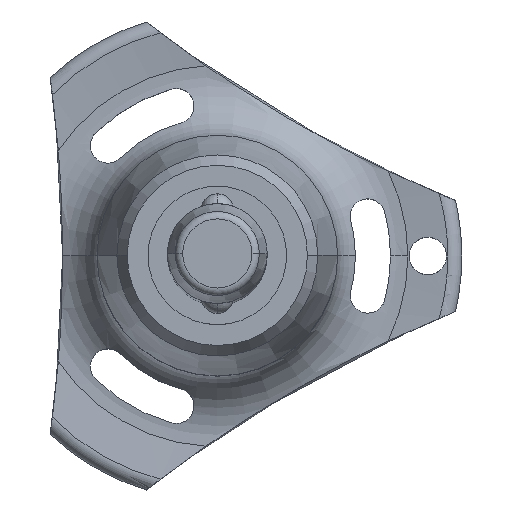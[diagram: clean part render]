
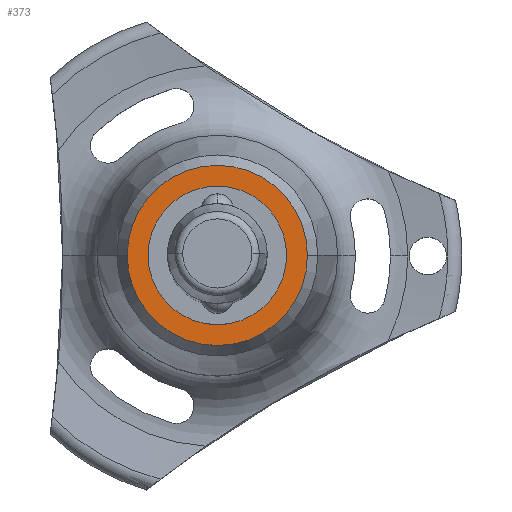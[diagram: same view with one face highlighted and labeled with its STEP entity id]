
A CAD part, top view. The second image highlights one B-rep face of the part: STEP entity #373.
In plain terms, the highlighted planar face has unit normal (0, 0, 1).
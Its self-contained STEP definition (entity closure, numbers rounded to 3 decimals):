
#15 = ORIENTED_EDGE ( 'NONE', *, *, #663, .F. ) ;
#49 = DIRECTION ( 'NONE',  ( 0., 0., -1. ) ) ;
#60 = AXIS2_PLACEMENT_3D ( 'NONE', #1111, #736, #1950 ) ;
#103 = ORIENTED_EDGE ( 'NONE', *, *, #1898, .F. ) ;
#276 = VERTEX_POINT ( 'NONE', #1463 ) ;
#300 = CIRCLE ( 'NONE', #1859, 5.554 ) ;
#373 = ADVANCED_FACE ( 'NONE', ( #2734, #623 ), #2042, .T. ) ;
#428 = VERTEX_POINT ( 'NONE', #2053 ) ;
#622 = EDGE_CURVE ( 'NONE', #2579, #428, #1045, .T. ) ;
#623 = FACE_OUTER_BOUND ( 'NONE', #2482, .T. ) ;
#663 = EDGE_CURVE ( 'NONE', #276, #2404, #1005, .T. ) ;
#722 = DIRECTION ( 'NONE',  ( -1., 0., 0. ) ) ;
#736 = DIRECTION ( 'NONE',  ( 0., 0., -1. ) ) ;
#773 = DIRECTION ( 'NONE',  ( 0., 0., -1. ) ) ;
#797 = DIRECTION ( 'NONE',  ( 0., 0., 1. ) ) ;
#1005 = CIRCLE ( 'NONE', #1350, 7.22 ) ;
#1045 = CIRCLE ( 'NONE', #60, 5.554 ) ;
#1111 = CARTESIAN_POINT ( 'NONE',  ( 0., 0., -80.6 ) ) ;
#1188 = AXIS2_PLACEMENT_3D ( 'NONE', #1408, #797, #2458 ) ;
#1269 = ORIENTED_EDGE ( 'NONE', *, *, #622, .T. ) ;
#1350 = AXIS2_PLACEMENT_3D ( 'NONE', #1938, #49, #722 ) ;
#1408 = CARTESIAN_POINT ( 'NONE',  ( 0., 5.554, -80.6 ) ) ;
#1463 = CARTESIAN_POINT ( 'NONE',  ( 7.22, 0., -80.6 ) ) ;
#1482 = ORIENTED_EDGE ( 'NONE', *, *, #1830, .T. ) ;
#1599 = AXIS2_PLACEMENT_3D ( 'NONE', #1930, #2308, #2531 ) ;
#1621 = DIRECTION ( 'NONE',  ( -1., 0., 0. ) ) ;
#1830 = EDGE_CURVE ( 'NONE', #428, #2579, #300, .T. ) ;
#1859 = AXIS2_PLACEMENT_3D ( 'NONE', #2018, #773, #1621 ) ;
#1898 = EDGE_CURVE ( 'NONE', #2404, #276, #2605, .T. ) ;
#1930 = CARTESIAN_POINT ( 'NONE',  ( 0., 0., -80.6 ) ) ;
#1938 = CARTESIAN_POINT ( 'NONE',  ( 0., 0., -80.6 ) ) ;
#1950 = DIRECTION ( 'NONE',  ( -1., 0., 0. ) ) ;
#2018 = CARTESIAN_POINT ( 'NONE',  ( 0., 0., -80.6 ) ) ;
#2042 = PLANE ( 'NONE',  #1188 ) ;
#2053 = CARTESIAN_POINT ( 'NONE',  ( -5.554, 0., -80.6 ) ) ;
#2139 = EDGE_LOOP ( 'NONE', ( #1482, #1269 ) ) ;
#2274 = CARTESIAN_POINT ( 'NONE',  ( 5.554, 0., -80.6 ) ) ;
#2308 = DIRECTION ( 'NONE',  ( 0., 0., -1. ) ) ;
#2404 = VERTEX_POINT ( 'NONE', #2648 ) ;
#2458 = DIRECTION ( 'NONE',  ( 1., 0., 0. ) ) ;
#2482 = EDGE_LOOP ( 'NONE', ( #103, #15 ) ) ;
#2531 = DIRECTION ( 'NONE',  ( -1., 0., 0. ) ) ;
#2579 = VERTEX_POINT ( 'NONE', #2274 ) ;
#2605 = CIRCLE ( 'NONE', #1599, 7.22 ) ;
#2648 = CARTESIAN_POINT ( 'NONE',  ( -7.22, 0., -80.6 ) ) ;
#2734 = FACE_BOUND ( 'NONE', #2139, .T. ) ;
